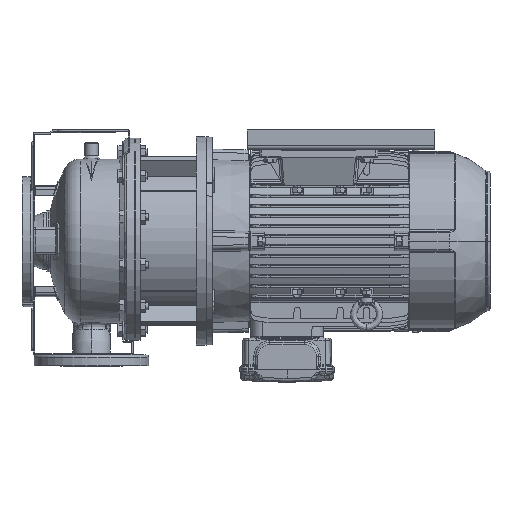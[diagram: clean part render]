
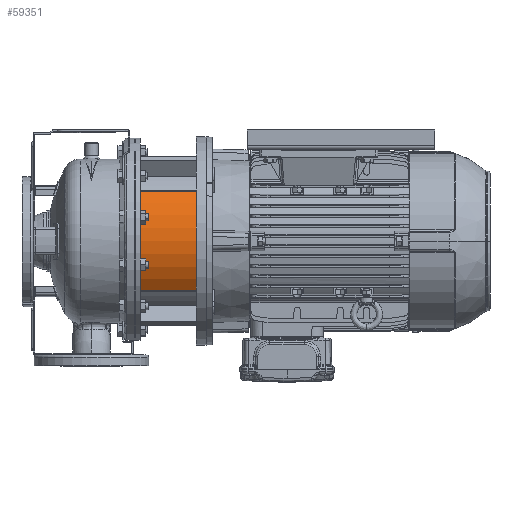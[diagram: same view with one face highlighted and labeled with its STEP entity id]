
A CAD part, left-side view. The second image highlights one B-rep face of the part: STEP entity #59351.
In plain terms, the highlighted cylindrical face has radius 112.5 mm (diameter 225 mm), a partial arc.
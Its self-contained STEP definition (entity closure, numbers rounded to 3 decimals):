
#1475 = VERTEX_POINT ( 'NONE', #44164 ) ;
#3631 = DIRECTION ( 'NONE',  ( 0., 1., 0. ) ) ;
#7410 = CYLINDRICAL_SURFACE ( 'NONE', #47822, 112.5 ) ;
#12584 = EDGE_CURVE ( 'NONE', #93314, #1475, #38526, .T. ) ;
#14920 = VECTOR ( 'NONE', #130509, 1000. ) ;
#24965 = ORIENTED_EDGE ( 'NONE', *, *, #34460, .T. ) ;
#33055 = DIRECTION ( 'NONE',  ( 0., -1., 0. ) ) ;
#34460 = EDGE_CURVE ( 'NONE', #136226, #35522, #119192, .T. ) ;
#35522 = VERTEX_POINT ( 'NONE', #97422 ) ;
#37139 = DIRECTION ( 'NONE',  ( -0.777, 0., -0.629 ) ) ;
#38526 = LINE ( 'NONE', #111366, #14920 ) ;
#41501 = CARTESIAN_POINT ( 'NONE',  ( -87.429, -20., -70.799 ) ) ;
#41509 = AXIS2_PLACEMENT_3D ( 'NONE', #43663, #88930, #37139 ) ;
#43663 = CARTESIAN_POINT ( 'NONE',  ( 0., -101., 0. ) ) ;
#44164 = CARTESIAN_POINT ( 'NONE',  ( -87.429, -101., 70.799 ) ) ;
#45305 = ORIENTED_EDGE ( 'NONE', *, *, #12584, .F. ) ;
#47099 = CARTESIAN_POINT ( 'NONE',  ( -87.429, -20., 70.799 ) ) ;
#47822 = AXIS2_PLACEMENT_3D ( 'NONE', #114489, #103270, #125000 ) ;
#52572 = AXIS2_PLACEMENT_3D ( 'NONE', #98792, #3631, #68001 ) ;
#54671 = CARTESIAN_POINT ( 'NONE',  ( -87.429, -20., -70.799 ) ) ;
#59351 = ADVANCED_FACE ( 'NONE', ( #81586 ), #7410, .T. ) ;
#65950 = CIRCLE ( 'NONE', #52572, 112.5 ) ;
#68001 = DIRECTION ( 'NONE',  ( -0.777, 0., -0.629 ) ) ;
#81586 = FACE_OUTER_BOUND ( 'NONE', #123213, .T. ) ;
#86919 = EDGE_CURVE ( 'NONE', #136226, #93314, #65950, .T. ) ;
#88930 = DIRECTION ( 'NONE',  ( 0., 1., 0. ) ) ;
#93314 = VERTEX_POINT ( 'NONE', #47099 ) ;
#97422 = CARTESIAN_POINT ( 'NONE',  ( -87.429, -101., -70.799 ) ) ;
#98792 = CARTESIAN_POINT ( 'NONE',  ( 0., -20., 0. ) ) ;
#103270 = DIRECTION ( 'NONE',  ( 0., -1., 0. ) ) ;
#111366 = CARTESIAN_POINT ( 'NONE',  ( -87.429, -20., 70.799 ) ) ;
#114489 = CARTESIAN_POINT ( 'NONE',  ( 0., -20., 0. ) ) ;
#119192 = LINE ( 'NONE', #41501, #128047 ) ;
#123213 = EDGE_LOOP ( 'NONE', ( #24965, #137599, #45305, #128293 ) ) ;
#125000 = DIRECTION ( 'NONE',  ( 1., 0., 0. ) ) ;
#126180 = EDGE_CURVE ( 'NONE', #35522, #1475, #135370, .T. ) ;
#128047 = VECTOR ( 'NONE', #33055, 1000. ) ;
#128293 = ORIENTED_EDGE ( 'NONE', *, *, #86919, .F. ) ;
#130509 = DIRECTION ( 'NONE',  ( 0., -1., 0. ) ) ;
#135370 = CIRCLE ( 'NONE', #41509, 112.5 ) ;
#136226 = VERTEX_POINT ( 'NONE', #54671 ) ;
#137599 = ORIENTED_EDGE ( 'NONE', *, *, #126180, .T. ) ;
